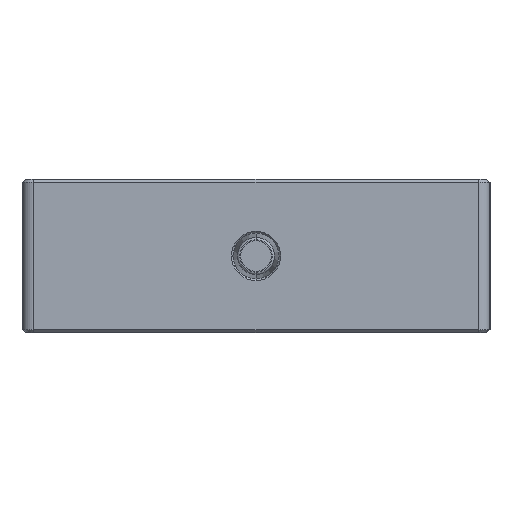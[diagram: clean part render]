
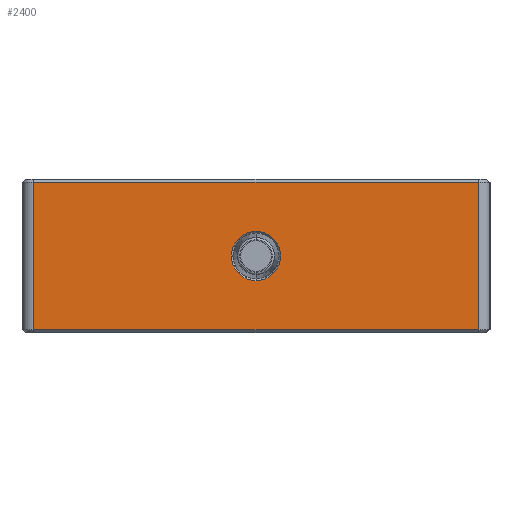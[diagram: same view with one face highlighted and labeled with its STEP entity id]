
A CAD part, front view. The second image highlights one B-rep face of the part: STEP entity #2400.
In plain terms, the highlighted planar face has unit normal (0, -1, 0).
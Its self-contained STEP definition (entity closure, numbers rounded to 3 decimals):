
#68 = FACE_OUTER_BOUND ( 'NONE', #495, .T. ) ;
#100 = EDGE_CURVE ( 'NONE', #1246, #959, #799, .T. ) ;
#105 = VECTOR ( 'NONE', #2161, 1000. ) ;
#107 = CARTESIAN_POINT ( 'NONE',  ( -29., -59.5, 9.6 ) ) ;
#146 = ORIENTED_EDGE ( 'NONE', *, *, #1069, .T. ) ;
#187 = ORIENTED_EDGE ( 'NONE', *, *, #599, .T. ) ;
#189 = LINE ( 'NONE', #1963, #105 ) ;
#198 = AXIS2_PLACEMENT_3D ( 'NONE', #543, #1075, #355 ) ;
#232 = DIRECTION ( 'NONE',  ( -1., 0., 0. ) ) ;
#261 = EDGE_CURVE ( 'NONE', #959, #454, #189, .T. ) ;
#299 = EDGE_CURVE ( 'NONE', #796, #535, #2005, .T. ) ;
#313 = CARTESIAN_POINT ( 'NONE',  ( 0., -59.5, 0. ) ) ;
#355 = DIRECTION ( 'NONE',  ( 0., 0., 1. ) ) ;
#383 = DIRECTION ( 'NONE',  ( 0., 0., -1. ) ) ;
#454 = VERTEX_POINT ( 'NONE', #1498 ) ;
#485 = CARTESIAN_POINT ( 'NONE',  ( 29., -59.5, -9.6 ) ) ;
#495 = EDGE_LOOP ( 'NONE', ( #187, #844, #1733, #146 ) ) ;
#535 = VERTEX_POINT ( 'NONE', #2223 ) ;
#543 = CARTESIAN_POINT ( 'NONE',  ( 0., -59.5, 0. ) ) ;
#557 = LINE ( 'NONE', #1913, #1938 ) ;
#599 = EDGE_CURVE ( 'NONE', #1800, #1246, #1289, .T. ) ;
#776 = CARTESIAN_POINT ( 'NONE',  ( -29., -59.5, 10. ) ) ;
#796 = VERTEX_POINT ( 'NONE', #1553 ) ;
#799 = LINE ( 'NONE', #485, #1483 ) ;
#812 = VECTOR ( 'NONE', #383, 1000. ) ;
#844 = ORIENTED_EDGE ( 'NONE', *, *, #100, .T. ) ;
#959 = VERTEX_POINT ( 'NONE', #1979 ) ;
#991 = CARTESIAN_POINT ( 'NONE',  ( -30.5, -59.5, 10. ) ) ;
#1069 = EDGE_CURVE ( 'NONE', #454, #1800, #557, .T. ) ;
#1075 = DIRECTION ( 'NONE',  ( 0., 1., 0. ) ) ;
#1180 = DIRECTION ( 'NONE',  ( 0., 1., 0. ) ) ;
#1214 = DIRECTION ( 'NONE',  ( 0., 1., 0. ) ) ;
#1216 = AXIS2_PLACEMENT_3D ( 'NONE', #313, #1214, #1597 ) ;
#1246 = VERTEX_POINT ( 'NONE', #1650 ) ;
#1289 = LINE ( 'NONE', #776, #812 ) ;
#1341 = CIRCLE ( 'NONE', #198, 3.2 ) ;
#1361 = DIRECTION ( 'NONE',  ( 0., 0., 1. ) ) ;
#1397 = AXIS2_PLACEMENT_3D ( 'NONE', #991, #1180, #1361 ) ;
#1483 = VECTOR ( 'NONE', #1970, 1000. ) ;
#1498 = CARTESIAN_POINT ( 'NONE',  ( 29., -59.5, 9.6 ) ) ;
#1542 = ORIENTED_EDGE ( 'NONE', *, *, #1690, .T. ) ;
#1553 = CARTESIAN_POINT ( 'NONE',  ( 0., -59.5, -3.2 ) ) ;
#1597 = DIRECTION ( 'NONE',  ( 0., 0., 1. ) ) ;
#1598 = EDGE_LOOP ( 'NONE', ( #2004, #1542 ) ) ;
#1650 = CARTESIAN_POINT ( 'NONE',  ( -29., -59.5, -9.6 ) ) ;
#1651 = FACE_BOUND ( 'NONE', #1598, .T. ) ;
#1690 = EDGE_CURVE ( 'NONE', #535, #796, #1341, .T. ) ;
#1733 = ORIENTED_EDGE ( 'NONE', *, *, #261, .T. ) ;
#1800 = VERTEX_POINT ( 'NONE', #107 ) ;
#1913 = CARTESIAN_POINT ( 'NONE',  ( -30.5, -59.5, 9.6 ) ) ;
#1938 = VECTOR ( 'NONE', #232, 1000. ) ;
#1963 = CARTESIAN_POINT ( 'NONE',  ( 29., -59.5, 10. ) ) ;
#1970 = DIRECTION ( 'NONE',  ( 1., 0., 0. ) ) ;
#1979 = CARTESIAN_POINT ( 'NONE',  ( 29., -59.5, -9.6 ) ) ;
#2004 = ORIENTED_EDGE ( 'NONE', *, *, #299, .T. ) ;
#2005 = CIRCLE ( 'NONE', #1216, 3.2 ) ;
#2161 = DIRECTION ( 'NONE',  ( 0., 0., 1. ) ) ;
#2223 = CARTESIAN_POINT ( 'NONE',  ( 0., -59.5, 3.2 ) ) ;
#2275 = PLANE ( 'NONE',  #1397 ) ;
#2400 = ADVANCED_FACE ( 'NONE', ( #1651, #68 ), #2275, .F. ) ;
